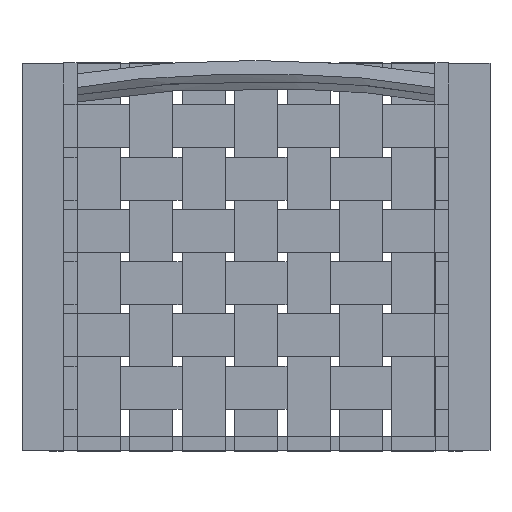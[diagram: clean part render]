
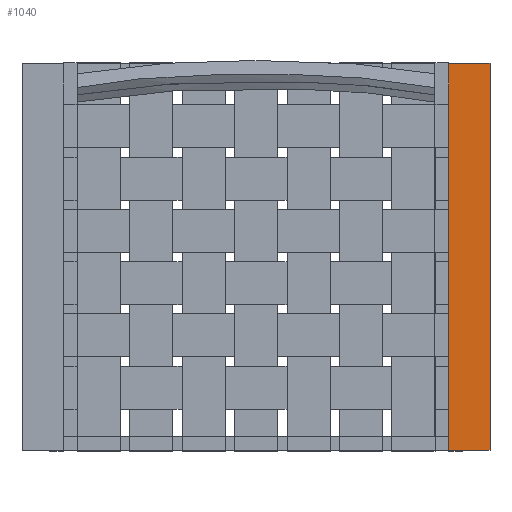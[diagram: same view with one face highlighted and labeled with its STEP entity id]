
A CAD part, top view. The second image highlights one B-rep face of the part: STEP entity #1040.
In plain terms, the highlighted planar face has unit normal (0, 0, 1).
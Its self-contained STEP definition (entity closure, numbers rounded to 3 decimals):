
#1040=ADVANCED_FACE('',(#1720),#10299,.T.);
#1720=FACE_OUTER_BOUND('',#2400,.T.);
#2400=EDGE_LOOP('',(#5413,#5414,#5415,#5416));
#5413=ORIENTED_EDGE('',*,*,#7144,.F.);
#5414=ORIENTED_EDGE('',*,*,#7141,.F.);
#5415=ORIENTED_EDGE('',*,*,#7138,.F.);
#5416=ORIENTED_EDGE('',*,*,#7134,.F.);
#7134=EDGE_CURVE('',#9679,#9680,#8566,.T.);
#7138=EDGE_CURVE('',#9680,#9683,#8570,.T.);
#7141=EDGE_CURVE('',#9683,#9685,#8573,.T.);
#7144=EDGE_CURVE('',#9685,#9679,#8576,.T.);
#8566=B_SPLINE_CURVE_WITH_KNOTS('',1,(#17180,#17181),.UNSPECIFIED.,.F.,
 .F.,(2,2),(-996.,-948.),.UNSPECIFIED.);
#8570=B_SPLINE_CURVE_WITH_KNOTS('',1,(#17188,#17189),.UNSPECIFIED.,.F.,
 .F.,(2,2),(-948.,-498.),.UNSPECIFIED.);
#8573=B_SPLINE_CURVE_WITH_KNOTS('',1,(#17194,#17195),.UNSPECIFIED.,.F.,
 .F.,(2,2),(-498.,-450.),.UNSPECIFIED.);
#8576=B_SPLINE_CURVE_WITH_KNOTS('',1,(#17200,#17201),.UNSPECIFIED.,.F.,
 .F.,(2,2),(-450.,0.),.UNSPECIFIED.);
#9679=VERTEX_POINT('',#17172);
#9680=VERTEX_POINT('',#17173);
#9683=VERTEX_POINT('',#17176);
#9685=VERTEX_POINT('',#17178);
#10299=PLANE('',#11061);
#11061=AXIS2_PLACEMENT_3D('',#17170,#11739,$);
#11739=DIRECTION('',(0.,0.,1.));
#17170=CARTESIAN_POINT('',(272.,-181.482,652.));
#17172=CARTESIAN_POINT('',(272.,-181.482,652.));
#17173=CARTESIAN_POINT('',(224.,-181.482,652.));
#17176=CARTESIAN_POINT('',(224.,268.518,652.));
#17178=CARTESIAN_POINT('',(272.,268.518,652.));
#17180=CARTESIAN_POINT('',(272.,-181.482,652.));
#17181=CARTESIAN_POINT('',(224.,-181.482,652.));
#17188=CARTESIAN_POINT('',(224.,-181.482,652.));
#17189=CARTESIAN_POINT('',(224.,268.518,652.));
#17194=CARTESIAN_POINT('',(224.,268.518,652.));
#17195=CARTESIAN_POINT('',(272.,268.518,652.));
#17200=CARTESIAN_POINT('',(272.,268.518,652.));
#17201=CARTESIAN_POINT('',(272.,-181.482,652.));
